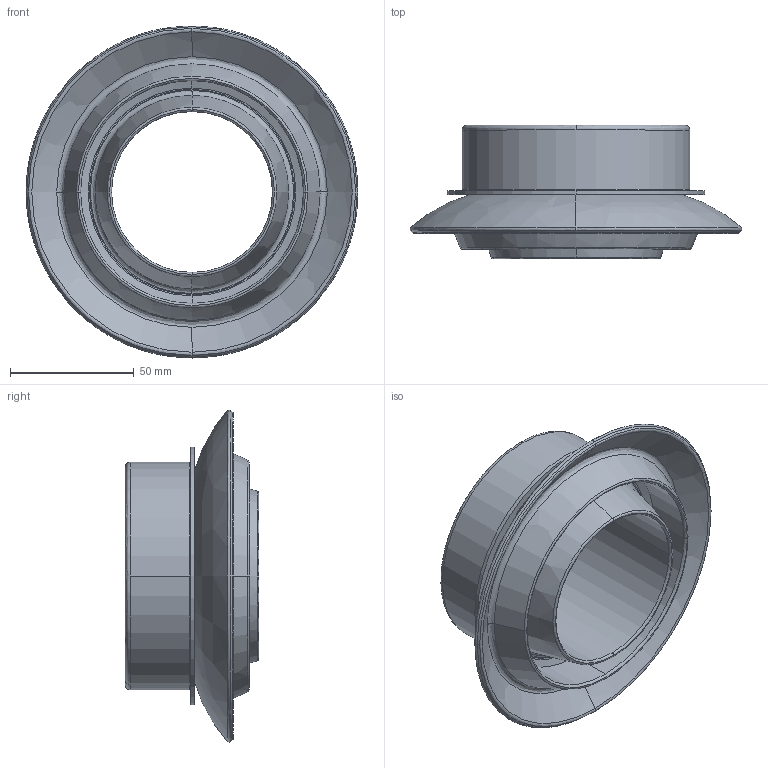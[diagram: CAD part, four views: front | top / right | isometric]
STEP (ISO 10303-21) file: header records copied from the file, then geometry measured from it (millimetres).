
FILE_DESCRIPTION (( 'STEP AP203' ), '1' );
FILE_NAME ('SUN_STEP.STEP', '2015-12-10T11:24:41', ( 'admin' ), ( '' ), 'SwSTEP 2.0', 'SolidWorks 2015', '' );
FILE_SCHEMA (( 'CONFIG_CONTROL_DESIGN' ));
Length unit declared in the file: millimetre
Products named in the file (2): SUN_STEP
Bounding box: 134.11 x 54 x 134.16 mm (x, y, z)
Volume: 148771.6 mm3; surface area: 74130 mm2
Topology: 2 solids, 2 shells, 58 faces, 134 edges, 82 vertices
Faces by surface type: bspline 36, cylinder 14, plane 6, cone 2
Entity records: 3664 total; most frequent: CARTESIAN_POINT 2399, ORIENTED_EDGE 268, DIRECTION 208, EDGE_CURVE 134, AXIS2_PLACEMENT_3D 96, VERTEX_POINT 82, CIRCLE 72, EDGE_LOOP 64
